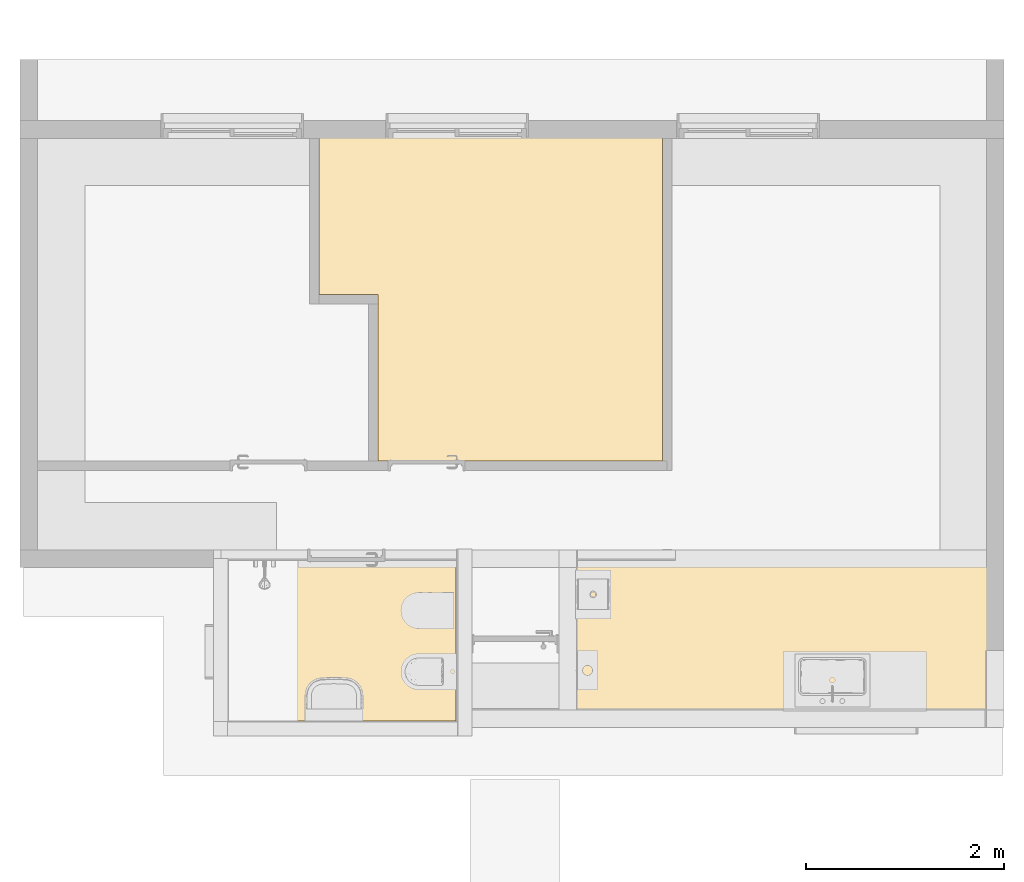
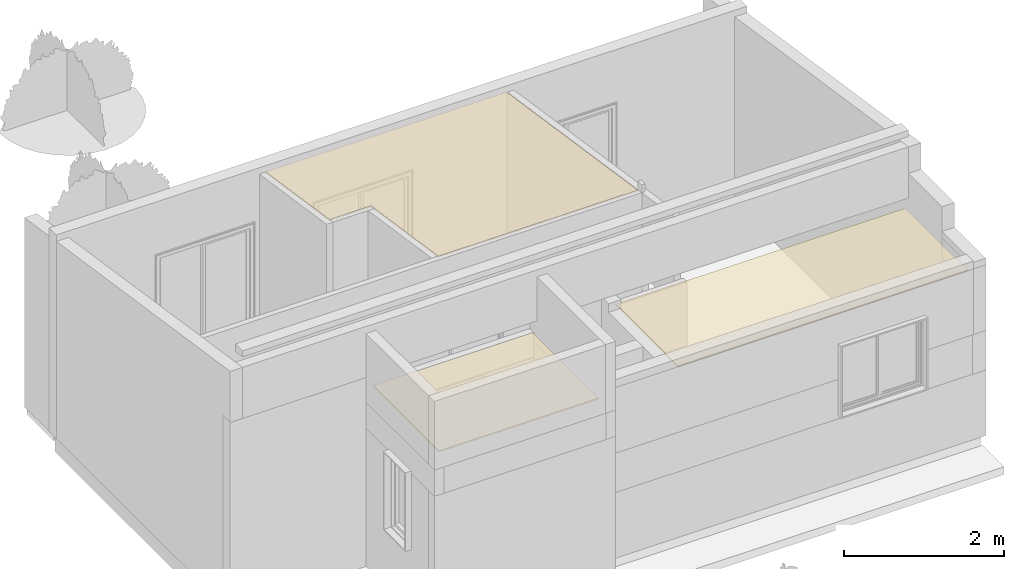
# One storey, part 7 of 10: 3 coverings.
"""IFC2X3 building model written with IfcOpenShell, lengths in metres."""

from ifc_helpers import new_model, entity, si_unit, converted_unit, derived_unit, direction, frame, frame_2d, origin, place, context, subcontext, project, spatial, rectangle, extrude, faceted_brep, material, layer, layer_set, layer_usage, type_object, element, save


model = new_model("IFC2X3")

# Units and contexts
model_context = context("Model", 3, precision=1e-05, world=origin(), true_north=direction((6.12303176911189e-17, 1.0)))
body_context = subcontext(model_context, "Body", "Model", "MODEL_VIEW")
ifc_project = project(units=[si_unit("LENGTHUNIT", "METRE"), si_unit("AREAUNIT", "SQUARE_METRE"), si_unit("VOLUMEUNIT", "CUBIC_METRE"), converted_unit("PLANEANGLEUNIT", "DEGREE", entity("IfcRatioMeasure", 0.0174532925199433), si_unit("PLANEANGLEUNIT", "RADIAN"), dimensions=[0, 0, 0, 0, 0, 0, 0]), si_unit("MASSUNIT", "GRAM", prefix="KILO"), derived_unit("MASSDENSITYUNIT", [(si_unit("MASSUNIT", "GRAM", prefix="KILO"), 1), (si_unit("LENGTHUNIT", "METRE"), -3)]), si_unit("TIMEUNIT", "SECOND"), si_unit("FREQUENCYUNIT", "HERTZ"), si_unit("THERMODYNAMICTEMPERATUREUNIT", "DEGREE_CELSIUS"), derived_unit("THERMALTRANSMITTANCEUNIT", [(si_unit("MASSUNIT", "GRAM", prefix="KILO"), 1), (si_unit("THERMODYNAMICTEMPERATUREUNIT", "KELVIN"), -1), (si_unit("TIMEUNIT", "SECOND"), -3)]), derived_unit("VOLUMETRICFLOWRATEUNIT", [(si_unit("LENGTHUNIT", "METRE"), 3), (si_unit("TIMEUNIT", "SECOND"), -1)]), si_unit("ELECTRICCURRENTUNIT", "AMPERE"), si_unit("ELECTRICVOLTAGEUNIT", "VOLT"), si_unit("POWERUNIT", "WATT"), si_unit("FORCEUNIT", "NEWTON", prefix="KILO"), si_unit("ILLUMINANCEUNIT", "LUX"), si_unit("LUMINOUSFLUXUNIT", "LUMEN"), si_unit("LUMINOUSINTENSITYUNIT", "CANDELA"), derived_unit("USERDEFINED", [(si_unit("MASSUNIT", "GRAM", prefix="KILO"), -1), (si_unit("LENGTHUNIT", "METRE"), -2), (si_unit("TIMEUNIT", "SECOND"), 3), (si_unit("LUMINOUSFLUXUNIT", "LUMEN"), 1)]), derived_unit("LINEARVELOCITYUNIT", [(si_unit("LENGTHUNIT", "METRE"), 1), (si_unit("TIMEUNIT", "SECOND"), -1)]), si_unit("PRESSUREUNIT", "PASCAL"), derived_unit("USERDEFINED", [(si_unit("LENGTHUNIT", "METRE"), -2), (si_unit("MASSUNIT", "GRAM", prefix="KILO"), 1), (si_unit("TIMEUNIT", "SECOND"), -2)])], contexts=[model_context])

# Site, building, storey
site_placement = place(None, origin())
site = spatial("IfcSite", under=ifc_project, at=site_placement, Name="Surface", CompositionType="ELEMENT")
building_placement = place(site_placement, origin())
building = spatial("IfcBuilding", under=site, at=building_placement, CompositionType="ELEMENT")
storey_placement = place(building_placement, origin())
storey = spatial("IfcBuildingStorey", under=building, at=storey_placement, Name="Nivel 0.0", CompositionType="ELEMENT", Elevation=0.0)

# Covering
ifc_material = material(Name="Cielorraso aplicado de yeso")
ifc_layer = layer(ifc_material, 0.02)
ifc_layer_set = layer_set([ifc_layer], Name="Compound Ceiling:1282-Aplicado de yeso")
ifc_layer_usage_1 = layer_usage(ifc_layer_set, "AXIS3", "POSITIVE", 0.0)
covering_type_1 = type_object("IfcCoveringType", Name="Compound Ceiling:1282-Aplicado de yeso", PredefinedType="CEILING")
covering_1_placement = place(storey_placement, origin())
element("IfcCovering", 1, at=covering_1_placement, inside=storey, type_object=covering_type_1, material=ifc_layer_usage_1, Name="Compound Ceiling:1282-Aplicado de yeso", ObjectType="Compound Ceiling:1282-Aplicado de yeso", PredefinedType="CEILING", context=body_context, shape_type="SweptSolid", body=[
    extrude(rectangle(XDim=4.18342821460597, YDim=1.55248662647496, at=frame_2d((0.0, 1.66533453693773e-16), x_axis=(1.0, 0.0))), frame((-1.30079957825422, -2.47654201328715, 2.44999999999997), z_axis=(0.0, 0.0, 1.0), x_axis=(-1.0, 0.0, 0.0)), (0.0, 0.0, 1.0), 0.0199999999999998),
])

# Space
space_placement = place(storey_placement, origin())
space = spatial("IfcSpace", under=storey, at=space_placement, Name="6", CompositionType="ELEMENT", InteriorOrExteriorSpace="INTERNAL")

# Coverings
ifc_layer_usage_2 = layer_usage(ifc_layer_set, "AXIS3", "POSITIVE", 0.0)
covering_type_2 = type_object("IfcCoveringType", Name="Compound Ceiling:1282-Aplicado de yeso", PredefinedType="CEILING")
covering_2_placement = place(space_placement, origin())
element("IfcCovering", 2, at=covering_2_placement, inside=space, type_object=covering_type_2, material=ifc_layer_usage_2, Name="Compound Ceiling:1282-Aplicado de yeso", ObjectType="Compound Ceiling:1282-Aplicado de yeso", PredefinedType="CEILING", context=body_context, shape_type="SweptSolid", body=[
    extrude(rectangle(XDim=1.64673662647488, YDim=2.29470171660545, at=frame_2d((1.66533453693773e-16, -3.33066907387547e-16), x_axis=(1.0, 0.0))), frame((-5.7466628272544, -2.5399170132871, 2.44999999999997), z_axis=(0.0, 0.0, 1.0), x_axis=(0.0, 1.0, 0.0)), (0.0, 0.0, 1.0), 0.0199999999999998),
])
ifc_layer_usage_3 = layer_usage(ifc_layer_set, "AXIS3", "POSITIVE", 0.0)
covering_type_3 = type_object("IfcCoveringType", Name="Compound Ceiling:1282-Aplicado de yeso", PredefinedType="CEILING")
covering_3_placement = place(storey_placement, frame((-5.98708559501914, -0.734722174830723, 2.79928790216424)))
element("IfcCovering", 3, at=covering_3_placement, inside=storey, type_object=covering_type_3, material=ifc_layer_usage_3, Name="Compound Ceiling:1282-Aplicado de yeso", ObjectType="Compound Ceiling:1282-Aplicado de yeso", PredefinedType="CEILING", context=body_context, shape_type="Brep", body=[
    faceted_brep([(0.597499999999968, 1.68093656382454, 0.259473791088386), (0.597499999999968, 0.0, 0.511614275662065), (3.47361710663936, 0.0, 0.511614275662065), (3.47361710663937, 3.27593684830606, 0.0202237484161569), (0.0, 3.27593684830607, 0.0202237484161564), (0.0, 1.68093656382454, 0.259473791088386), (0.597499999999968, 1.68093656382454, 0.239250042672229), (0.0, 1.68093656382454, 0.239250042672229), (0.0, 3.27593684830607, 0.0), (3.47361710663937, 3.27593684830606, 0.0), (3.47361710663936, 0.0, 0.491390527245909), (0.597499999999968, 0.0, 0.491390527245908)], [[[0, 1, 2, 3, 4, 5]], [[6, 7, 8, 9, 10, 11]], [[1, 0, 6, 11]], [[2, 1, 11, 10]], [[3, 2, 10, 9]], [[4, 3, 9, 8]], [[5, 4, 8, 7]], [[0, 5, 7, 6]]]),
])

save(model, "model.ifc")
